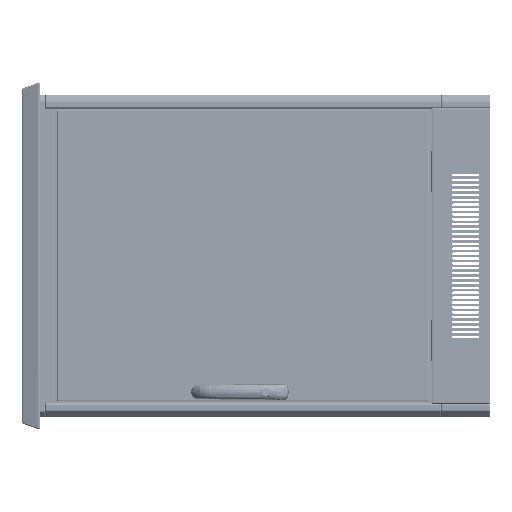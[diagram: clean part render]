
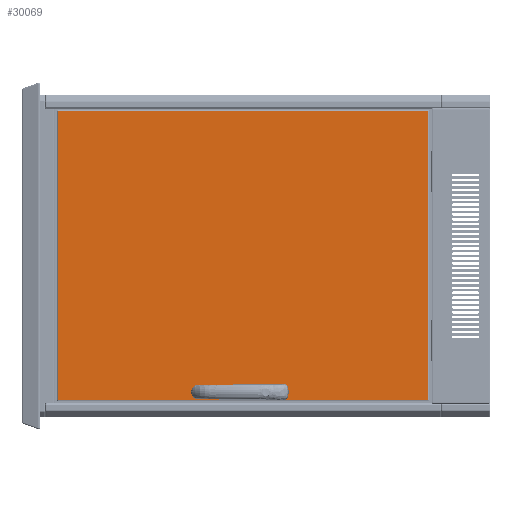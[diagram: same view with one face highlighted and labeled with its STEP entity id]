
A CAD part, left-side view. The second image highlights one B-rep face of the part: STEP entity #30069.
In plain terms, the highlighted planar face has unit normal (-1, 0, 0) as drawn and (0, 0, -1) by its records, which use the part's own axes.
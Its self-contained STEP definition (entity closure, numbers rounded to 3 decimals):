
#3009 = LINE ( 'NONE', #134499, #48088 ) ;
#4377 = CARTESIAN_POINT ( 'NONE',  ( 288.1, -31.35, 0. ) ) ;
#4414 = AXIS2_PLACEMENT_3D ( 'NONE', #55028, #31824, #90620 ) ;
#4564 = EDGE_CURVE ( 'NONE', #134676, #81308, #42377, .T. ) ;
#5031 = CIRCLE ( 'NONE', #54470, 9.5 ) ;
#7248 = CARTESIAN_POINT ( 'NONE',  ( 278.6, -31.35, 0. ) ) ;
#11225 = VECTOR ( 'NONE', #45262, 1000. ) ;
#11852 = CARTESIAN_POINT ( 'NONE',  ( 278.6, 31.35, 0. ) ) ;
#12291 = DIRECTION ( 'NONE',  ( 0., 0., 1. ) ) ;
#12322 = EDGE_CURVE ( 'NONE', #71614, #147946, #60191, .T. ) ;
#12512 = DIRECTION ( 'NONE',  ( 0., 0., 1. ) ) ;
#14411 = CARTESIAN_POINT ( 'NONE',  ( 269.1, -31.35, 0. ) ) ;
#14669 = CARTESIAN_POINT ( 'NONE',  ( -295.15, -377.65, 0. ) ) ;
#16199 = ORIENTED_EDGE ( 'NONE', *, *, #79057, .T. ) ;
#17999 = LINE ( 'NONE', #19500, #98859 ) ;
#19500 = CARTESIAN_POINT ( 'NONE',  ( -295.15, 380., 0. ) ) ;
#19773 = CARTESIAN_POINT ( 'NONE',  ( -297.5, -377.65, 0. ) ) ;
#21961 = DIRECTION ( 'NONE',  ( 0., 0., 1. ) ) ;
#22200 = LINE ( 'NONE', #118070, #48580 ) ;
#23444 = EDGE_LOOP ( 'NONE', ( #74636, #47701, #138852, #92475 ) ) ;
#26063 = LINE ( 'NONE', #130484, #123216 ) ;
#26423 = CARTESIAN_POINT ( 'NONE',  ( 295.15, 377.65, 0. ) ) ;
#28867 = DIRECTION ( 'NONE',  ( 0., 1., 0. ) ) ;
#30069 = ADVANCED_FACE ( 'NONE', ( #67417, #150130, #102257, #89135 ), #136288, .T. ) ;
#30964 = VERTEX_POINT ( 'NONE', #117841 ) ;
#31824 = DIRECTION ( 'NONE',  ( 0., 0., 1. ) ) ;
#32737 = EDGE_LOOP ( 'NONE', ( #131161, #16199 ) ) ;
#34091 = CARTESIAN_POINT ( 'NONE',  ( 269.1, 79.35, 0. ) ) ;
#37774 = ORIENTED_EDGE ( 'NONE', *, *, #74773, .T. ) ;
#42377 = CIRCLE ( 'NONE', #128839, 9.5 ) ;
#42528 = CARTESIAN_POINT ( 'NONE',  ( 288.1, 31.35, 0. ) ) ;
#42964 = DIRECTION ( 'NONE',  ( -1., 0., 0. ) ) ;
#44974 = CARTESIAN_POINT ( 'NONE',  ( 295.15, -377.65, 0. ) ) ;
#45262 = DIRECTION ( 'NONE',  ( -1., 0., 0. ) ) ;
#45795 = EDGE_CURVE ( 'NONE', #113234, #78308, #114922, .T. ) ;
#47701 = ORIENTED_EDGE ( 'NONE', *, *, #4564, .T. ) ;
#48088 = VECTOR ( 'NONE', #101983, 1000. ) ;
#48440 = EDGE_LOOP ( 'NONE', ( #57426, #127058, #101614, #81620 ) ) ;
#48580 = VECTOR ( 'NONE', #152860, 1000. ) ;
#49043 = VERTEX_POINT ( 'NONE', #71741 ) ;
#50234 = EDGE_CURVE ( 'NONE', #49043, #134676, #126937, .T. ) ;
#53667 = DIRECTION ( 'NONE',  ( 0., 0., 1. ) ) ;
#54470 = AXIS2_PLACEMENT_3D ( 'NONE', #68803, #71069, #106652 ) ;
#55028 = CARTESIAN_POINT ( 'NONE',  ( 278.6, 0., 0. ) ) ;
#57426 = ORIENTED_EDGE ( 'NONE', *, *, #45795, .T. ) ;
#58064 = DIRECTION ( 'NONE',  ( 0., -1., 0. ) ) ;
#59281 = VERTEX_POINT ( 'NONE', #135465 ) ;
#60191 = LINE ( 'NONE', #69546, #98067 ) ;
#67417 = FACE_OUTER_BOUND ( 'NONE', #48440, .T. ) ;
#67422 = CARTESIAN_POINT ( 'NONE',  ( 269.1, -79.35, 0. ) ) ;
#68785 = DIRECTION ( 'NONE',  ( 0., -1., 0. ) ) ;
#68803 = CARTESIAN_POINT ( 'NONE',  ( 278.6, 79.35, 0. ) ) ;
#69253 = EDGE_CURVE ( 'NONE', #78308, #59281, #17999, .T. ) ;
#69546 = CARTESIAN_POINT ( 'NONE',  ( 269.1, -31.35, 0. ) ) ;
#69835 = CARTESIAN_POINT ( 'NONE',  ( 288.1, -79.35, 0. ) ) ;
#69910 = DIRECTION ( 'NONE',  ( -1., 0., 0. ) ) ;
#71069 = DIRECTION ( 'NONE',  ( 0., 0., 1. ) ) ;
#71614 = VERTEX_POINT ( 'NONE', #14411 ) ;
#71741 = CARTESIAN_POINT ( 'NONE',  ( 269.1, 79.35, 0. ) ) ;
#72808 = ORIENTED_EDGE ( 'NONE', *, *, #137821, .T. ) ;
#72890 = CARTESIAN_POINT ( 'NONE',  ( 281.35, 0., 0. ) ) ;
#73411 = VERTEX_POINT ( 'NONE', #26423 ) ;
#73952 = EDGE_CURVE ( 'NONE', #59281, #73411, #3009, .T. ) ;
#74636 = ORIENTED_EDGE ( 'NONE', *, *, #50234, .T. ) ;
#74773 = EDGE_CURVE ( 'NONE', #125190, #71614, #89949, .T. ) ;
#78308 = VERTEX_POINT ( 'NONE', #14669 ) ;
#79057 = EDGE_CURVE ( 'NONE', #138122, #152664, #143078, .T. ) ;
#79325 = CARTESIAN_POINT ( 'NONE',  ( 278.6, -79.35, 0. ) ) ;
#81308 = VERTEX_POINT ( 'NONE', #42528 ) ;
#81356 = VECTOR ( 'NONE', #106723, 1000. ) ;
#81620 = ORIENTED_EDGE ( 'NONE', *, *, #94139, .T. ) ;
#83777 = VECTOR ( 'NONE', #58064, 1000. ) ;
#88282 = VERTEX_POINT ( 'NONE', #69835 ) ;
#89135 = FACE_BOUND ( 'NONE', #23444, .T. ) ;
#89877 = DIRECTION ( 'NONE',  ( 0., 0., -1. ) ) ;
#89949 = CIRCLE ( 'NONE', #109731, 9.5 ) ;
#90620 = DIRECTION ( 'NONE',  ( -1., 0., 0. ) ) ;
#92475 = ORIENTED_EDGE ( 'NONE', *, *, #135123, .T. ) ;
#94139 = EDGE_CURVE ( 'NONE', #73411, #113234, #22200, .T. ) ;
#95116 = LINE ( 'NONE', #145335, #81356 ) ;
#98067 = VECTOR ( 'NONE', #68785, 1000. ) ;
#98859 = VECTOR ( 'NONE', #28867, 1000. ) ;
#101427 = CARTESIAN_POINT ( 'NONE',  ( 275.85, 0., 0. ) ) ;
#101614 = ORIENTED_EDGE ( 'NONE', *, *, #73952, .T. ) ;
#101983 = DIRECTION ( 'NONE',  ( 1., 0., 0. ) ) ;
#102257 = FACE_BOUND ( 'NONE', #106810, .T. ) ;
#106652 = DIRECTION ( 'NONE',  ( -1., 0., 0. ) ) ;
#106723 = DIRECTION ( 'NONE',  ( 0., 1., 0. ) ) ;
#106810 = EDGE_LOOP ( 'NONE', ( #130221, #72808, #126684, #37774 ) ) ;
#109465 = AXIS2_PLACEMENT_3D ( 'NONE', #79325, #12512, #42964 ) ;
#109731 = AXIS2_PLACEMENT_3D ( 'NONE', #7248, #53667, #113990 ) ;
#113234 = VERTEX_POINT ( 'NONE', #44974 ) ;
#113990 = DIRECTION ( 'NONE',  ( -1., 0., 0. ) ) ;
#114922 = LINE ( 'NONE', #19773, #11225 ) ;
#116882 = DIRECTION ( 'NONE',  ( -1., 0., 0. ) ) ;
#117841 = CARTESIAN_POINT ( 'NONE',  ( 288.1, 79.35, 0. ) ) ;
#118070 = CARTESIAN_POINT ( 'NONE',  ( 295.15, -380., 0. ) ) ;
#118133 = DIRECTION ( 'NONE',  ( 0., 1., 0. ) ) ;
#118274 = CARTESIAN_POINT ( 'NONE',  ( 278.6, 0., 0. ) ) ;
#121271 = AXIS2_PLACEMENT_3D ( 'NONE', #118274, #12291, #130624 ) ;
#123168 = CARTESIAN_POINT ( 'NONE',  ( 0., 0., 0. ) ) ;
#123216 = VECTOR ( 'NONE', #118133, 1000. ) ;
#123397 = EDGE_CURVE ( 'NONE', #152664, #138122, #133625, .T. ) ;
#125190 = VERTEX_POINT ( 'NONE', #4377 ) ;
#126684 = ORIENTED_EDGE ( 'NONE', *, *, #142251, .T. ) ;
#126937 = LINE ( 'NONE', #34091, #83777 ) ;
#127058 = ORIENTED_EDGE ( 'NONE', *, *, #69253, .T. ) ;
#128839 = AXIS2_PLACEMENT_3D ( 'NONE', #11852, #21961, #69910 ) ;
#130221 = ORIENTED_EDGE ( 'NONE', *, *, #12322, .T. ) ;
#130484 = CARTESIAN_POINT ( 'NONE',  ( 288.1, 79.35, 0. ) ) ;
#130624 = DIRECTION ( 'NONE',  ( -1., 0., 0. ) ) ;
#130768 = CARTESIAN_POINT ( 'NONE',  ( 269.1, 31.35, 0. ) ) ;
#131161 = ORIENTED_EDGE ( 'NONE', *, *, #123397, .T. ) ;
#133625 = CIRCLE ( 'NONE', #121271, 2.75 ) ;
#134499 = CARTESIAN_POINT ( 'NONE',  ( 297.5, 377.65, 0. ) ) ;
#134676 = VERTEX_POINT ( 'NONE', #130768 ) ;
#135123 = EDGE_CURVE ( 'NONE', #30964, #49043, #5031, .T. ) ;
#135465 = CARTESIAN_POINT ( 'NONE',  ( -295.15, 377.65, 0. ) ) ;
#136288 = PLANE ( 'NONE',  #147897 ) ;
#136604 = CIRCLE ( 'NONE', #109465, 9.5 ) ;
#137821 = EDGE_CURVE ( 'NONE', #147946, #88282, #136604, .T. ) ;
#138122 = VERTEX_POINT ( 'NONE', #101427 ) ;
#138852 = ORIENTED_EDGE ( 'NONE', *, *, #142725, .T. ) ;
#142251 = EDGE_CURVE ( 'NONE', #88282, #125190, #95116, .T. ) ;
#142725 = EDGE_CURVE ( 'NONE', #81308, #30964, #26063, .T. ) ;
#143078 = CIRCLE ( 'NONE', #4414, 2.75 ) ;
#145335 = CARTESIAN_POINT ( 'NONE',  ( 288.1, -31.35, 0. ) ) ;
#147897 = AXIS2_PLACEMENT_3D ( 'NONE', #123168, #89877, #116882 ) ;
#147946 = VERTEX_POINT ( 'NONE', #67422 ) ;
#150130 = FACE_BOUND ( 'NONE', #32737, .T. ) ;
#152664 = VERTEX_POINT ( 'NONE', #72890 ) ;
#152860 = DIRECTION ( 'NONE',  ( 0., -1., 0. ) ) ;
